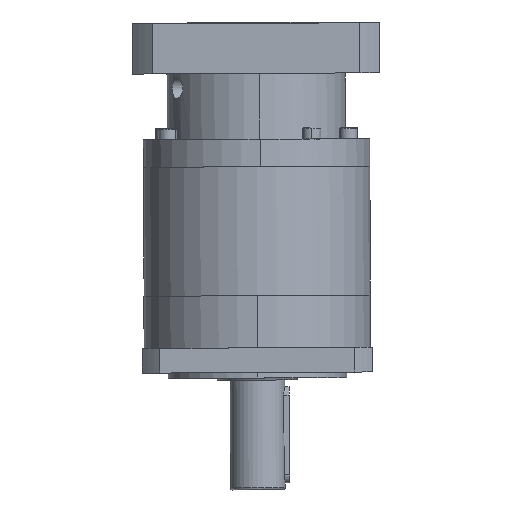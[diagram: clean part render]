
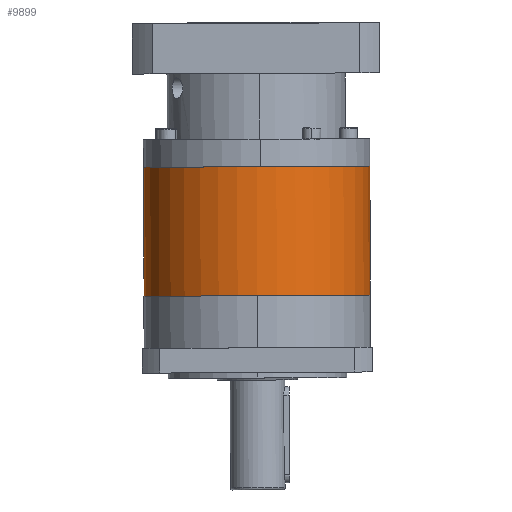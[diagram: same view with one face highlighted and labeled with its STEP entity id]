
A CAD part, front view. The second image highlights one B-rep face of the part: STEP entity #9899.
In plain terms, the highlighted cylindrical face has radius 82.5 mm (diameter 165 mm), a full revolution.
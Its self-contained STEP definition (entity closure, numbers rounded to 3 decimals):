
#8122=CYLINDRICAL_SURFACE('',#34749,82.5);
#9899=ADVANCED_FACE('',(#10805,#10806),#8122,.T.);
#10805=FACE_BOUND('',#12728,.T.);
#10806=FACE_BOUND('',#12729,.T.);
#12728=EDGE_LOOP('',(#20302));
#12729=EDGE_LOOP('',(#20303));
#20302=ORIENTED_EDGE('',*,*,#29852,.T.);
#20303=ORIENTED_EDGE('',*,*,#29853,.T.);
#25263=VERTEX_POINT('',#108686);
#25264=VERTEX_POINT('',#108688);
#29852=EDGE_CURVE('',#25263,#25263,#31828,.T.);
#29853=EDGE_CURVE('',#25264,#25264,#31829,.T.);
#31828=CIRCLE('',#34747,82.5);
#31829=CIRCLE('',#34748,82.5);
#34747=AXIS2_PLACEMENT_3D('',#108685,#42287,#42288);
#34748=AXIS2_PLACEMENT_3D('',#108687,#42289,#42290);
#34749=AXIS2_PLACEMENT_3D('',#108689,#42291,#42292);
#42287=DIRECTION('',(-0.005,0.,1.));
#42288=DIRECTION('',(-1.,0.,-0.005));
#42289=DIRECTION('',(0.005,0.,-1.));
#42290=DIRECTION('',(1.,0.,0.005));
#42291=DIRECTION('',(-0.005,0.,1.));
#42292=DIRECTION('',(1.,0.,0.005));
#108685=CARTESIAN_POINT('',(0.101,0.,-117.06));
#108686=CARTESIAN_POINT('',(-82.398,0.,-117.492));
#108687=CARTESIAN_POINT('',(-0.391,0.,-23.061));
#108688=CARTESIAN_POINT('',(82.108,0.,-22.629));
#108689=CARTESIAN_POINT('',(-0.09,0.,-80.56));
